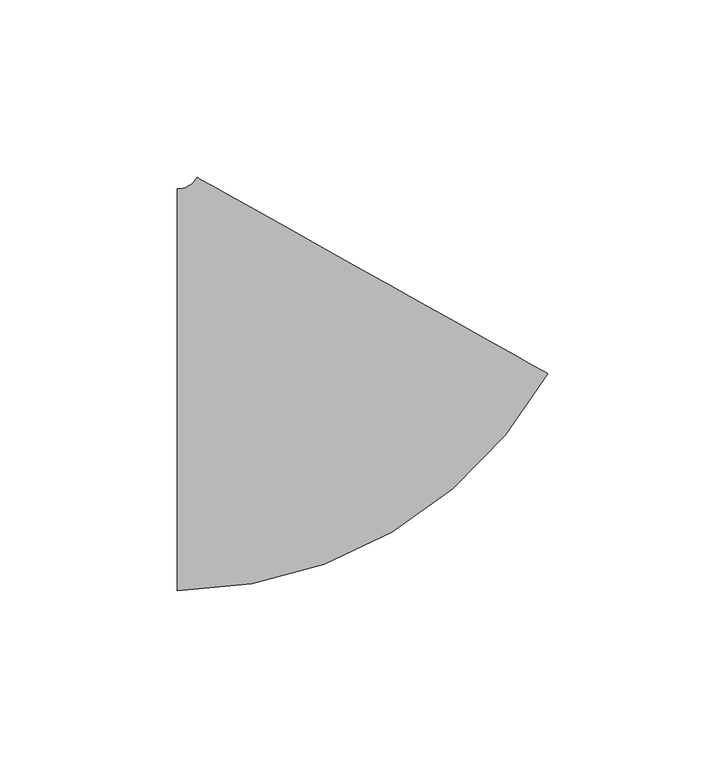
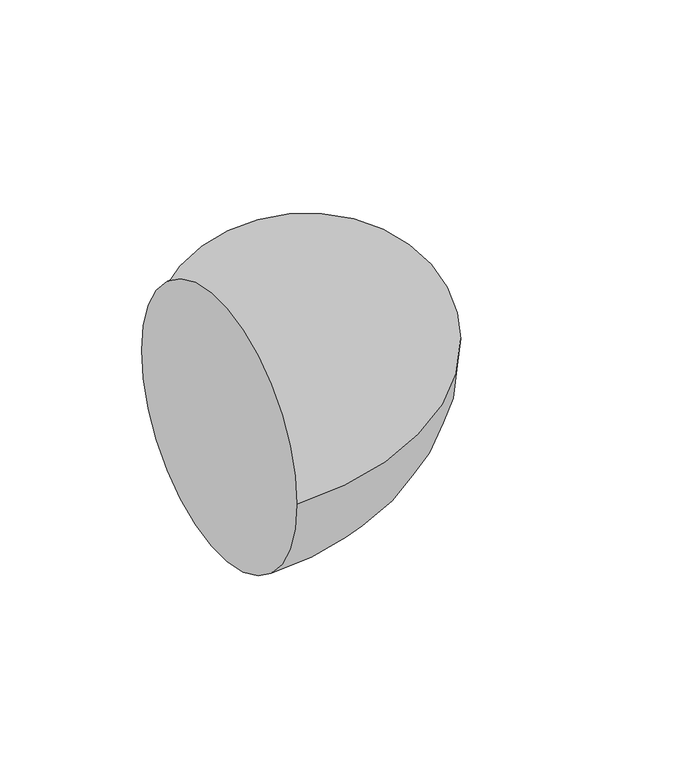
"""IFC4 building model written with IfcOpenShell, lengths in millimetres: pipe fitting geometry, M_Codo - Genérico : Estándar."""

import ifcopenshell
import ifcopenshell.guid

model = None  # the IFC model being written
_history = None  # IfcOwnerHistory: only IFC2X3 demands one
_inside = {}  # id of a spatial element -> (the spatial element, [elements in it])
_under = {}  # id of a project, library or spatial element -> (it, [spatial elements below it])
_declared = {}  # id of a project -> (the project, [libraries it declares])
_typed = {}  # id of a type object -> (the type object, [elements of that type])
_made_of = {}  # id of a material, layer set ... -> (it, [elements and type objects made of it])


def new_model(schema):
    """Start an empty IFC model of exactly this schema.

    Asked for "IFC4X3", IfcOpenShell would pick the latest addendum, in which some entities
    have other attributes; the version numbers below select the first issue.
    IFC2X3 requires an IfcOwnerHistory on every rooted entity: one is made here for all.
    """
    global model, _history
    if schema == "IFC4X3":
        model = ifcopenshell.file(schema_version=(4, 3, 0, 0))
    else:
        model = ifcopenshell.file(schema=schema)
    _inside.clear()
    _under.clear()
    _declared.clear()
    _typed.clear()
    _made_of.clear()
    _history = None
    if model.schema == "IFC2X3":
        org = make("IfcOrganization", Name="unknown")
        user = make(
            "IfcPersonAndOrganization",
            ThePerson=make("IfcPerson", FamilyName="unknown"),
            TheOrganization=org,
        )
        app = make(
            "IfcApplication",
            ApplicationDeveloper=org,
            Version="unknown",
            ApplicationFullName="unknown",
            ApplicationIdentifier="unknown",
        )
        _history = make(
            "IfcOwnerHistory",
            OwningUser=user,
            OwningApplication=app,
            ChangeAction="ADDED",
            CreationDate=0,
        )
    return model


def make(cls, **values):
    """One entity of the class cls with the attributes given. An attribute that is None is left unset."""
    return model.create_entity(
        cls, **{name: value for name, value in values.items() if value is not None}
    )


def rooted(cls, **values):
    """An entity with a GlobalId (a new one), such as an element, a storey or a relation."""
    return make(cls, GlobalId=ifcopenshell.guid.new(), OwnerHistory=_history, **values)


def si_unit(unit_type, name, prefix=None):
    """IfcSIUnit, for example si_unit("LENGTHUNIT", "METRE", prefix="MILLI")."""
    return make("IfcSIUnit", UnitType=unit_type, Prefix=prefix, Name=name)


def assignment(units):
    """IfcUnitAssignment: the units of a project."""
    return None if units is None else make("IfcUnitAssignment", Units=units)


def point(xyz):
    """IfcCartesianPoint."""
    return None if xyz is None else make("IfcCartesianPoint", Coordinates=xyz)


def direction(xyz):
    """IfcDirection."""
    return None if xyz is None else make("IfcDirection", DirectionRatios=xyz)


def frame(location, z_axis=None, x_axis=None):
    """IfcAxis2Placement3D, a coordinate frame: its origin and axes. An axis left out is left unset."""
    return make(
        "IfcAxis2Placement3D",
        Location=point(location),
        Axis=direction(z_axis),
        RefDirection=direction(x_axis),
    )


def origin():
    """The frame at (0, 0, 0) with its axes left unset."""
    return frame((0.0, 0.0, 0.0))


def place(relative_to, where):
    """IfcLocalPlacement: puts the frame where relative to a parent placement (None: the world)."""
    return make(
        "IfcLocalPlacement", PlacementRelTo=relative_to, RelativePlacement=where
    )


def context(
    kind, dimensions, precision=None, world=None, true_north=None, identifier=None
):
    """IfcGeometricRepresentationContext, for example the 3D "Model" context."""
    return make(
        "IfcGeometricRepresentationContext",
        ContextIdentifier=identifier,
        ContextType=kind,
        CoordinateSpaceDimension=dimensions,
        Precision=precision,
        WorldCoordinateSystem=world,
        TrueNorth=true_north,
    )


def project(units=None, contexts=None):
    """IfcProject with its units and contexts."""
    return rooted(
        "IfcProject",
        Name="project",
        RepresentationContexts=contexts,
        UnitsInContext=assignment(units),
    )


def spatial(cls, under=None, at=None, **own):
    """A site, building, storey or space (cls), placed at a placement, below another one or the project."""
    s = rooted(cls, ObjectPlacement=at, **own)
    if under is not None:
        _under.setdefault(under.id(), (under, []))[1].append(s)
    return s


def circle_curve(where, radius):
    """IfcCircle in the frame where."""
    return make("IfcCircle", Position=where, Radius=radius)


def ellipse_curve(where, semi_axis1, semi_axis2):
    """IfcEllipse in the frame where."""
    return make(
        "IfcEllipse", Position=where, SemiAxis1=semi_axis1, SemiAxis2=semi_axis2
    )


def trimmed(basis, trim1, trim2, sense, master):
    """IfcTrimmedCurve: the piece of a basis curve between two trims."""
    return make(
        "IfcTrimmedCurve",
        BasisCurve=basis,
        Trim1=trim1,
        Trim2=trim2,
        SenseAgreement=sense,
        MasterRepresentation=master,
    )


def shape(context_of_items, identifier, shape_type, items):
    """IfcShapeRepresentation: the items that make up one representation, for example the "Body"."""
    return make(
        "IfcShapeRepresentation",
        ContextOfItems=context_of_items,
        RepresentationIdentifier=identifier,
        RepresentationType=shape_type,
        Items=items,
    )


def source(mapping_origin, context_of_items, identifier, shape_type, items):
    """IfcRepresentationMap: a shape defined once, which mapped items show again and again."""
    return make(
        "IfcRepresentationMap",
        MappingOrigin=mapping_origin,
        MappedRepresentation=shape(context_of_items, identifier, shape_type, items),
    )


def transform(
    local_origin,
    x_axis=None,
    y_axis=None,
    z_axis=None,
    scale=None,
    scale2=None,
    scale3=None,
    uniform=True,
):
    """IfcCartesianTransformationOperator3D, or its non-uniform kind. x_axis, y_axis, z_axis: its Axis1, 2, 3."""
    if uniform:
        return make(
            "IfcCartesianTransformationOperator3D",
            Axis1=direction(x_axis),
            Axis2=direction(y_axis),
            LocalOrigin=point(local_origin),
            Scale=scale,
            Axis3=direction(z_axis),
        )
    return make(
        "IfcCartesianTransformationOperator3DnonUniform",
        Axis1=direction(x_axis),
        Axis2=direction(y_axis),
        LocalOrigin=point(local_origin),
        Scale=scale,
        Axis3=direction(z_axis),
        Scale2=scale2,
        Scale3=scale3,
    )


def mapped(mapping_source, mapping_target):
    """IfcMappedItem: shows the shape of a source again, moved by a transform."""
    return make(
        "IfcMappedItem", MappingSource=mapping_source, MappingTarget=mapping_target
    )


def made_of(thing, what):
    """Note that an element or type object is made of a material, layer set ...; save() writes the relation."""
    if what is not None:
        _made_of.setdefault(what.id(), (what, []))[1].append(thing)
    return thing


def element(
    cls,
    number,
    at=None,
    inside=None,
    cuts=None,
    type_object=None,
    material=None,
    context=None,
    identifier="Body",
    shape_type=None,
    held_by="IfcProductDefinitionShape",
    body=None,
    shapes=None,
    **own,
):
    """One element of the class cls, such as IfcWall. Its Tag is "e" and its number.

    at: its placement. inside: the storey or other place that contains it. cuts: it is an
    opening in that element (IfcRelVoidsElement). A single representation is given by context,
    identifier, shape_type and body (its items); several are given by shapes. held_by: the class
    of the entity that holds the representations. save() writes the other relations.
    """
    e = rooted(cls, Tag="e%d" % number, ObjectPlacement=at, **own)
    if body is not None:
        shapes = [shape(context, identifier, shape_type, body)]
    if shapes is not None:
        e.Representation = make(held_by, Representations=shapes)
    if inside is not None:
        _inside.setdefault(inside.id(), (inside, []))[1].append(e)
    if cuts is not None:
        rooted(
            "IfcRelVoidsElement", RelatingBuildingElement=cuts, RelatedOpeningElement=e
        )
    if type_object is not None:
        _typed.setdefault(type_object.id(), (type_object, []))[1].append(e)
    return made_of(e, material)


def aggregate(whole, parts):
    """IfcRelAggregates: a whole, such as a stair, and the parts it consists of."""
    return rooted("IfcRelAggregates", RelatingObject=whole, RelatedObjects=parts)


def save(model, path):
    """Write the relations noted so far, then the file.

    IfcRelAggregates (storeys below a building ...), IfcRelContainedInSpatialStructure (elements
    in a storey), IfcRelDefinesByType, IfcRelAssociatesMaterial and IfcRelDeclares: one each for
    every whole, place, type object, material and project.
    """
    for whole, parts in _under.values():
        aggregate(whole, parts)
    for where, things in _inside.values():
        rooted(
            "IfcRelContainedInSpatialStructure",
            RelatedElements=things,
            RelatingStructure=where,
        )
    for kind, things in _typed.values():
        rooted("IfcRelDefinesByType", RelatedObjects=things, RelatingType=kind)
    for what, things in _made_of.values():
        rooted("IfcRelAssociatesMaterial", RelatedObjects=things, RelatingMaterial=what)
    for by, libraries in _declared.values():
        rooted("IfcRelDeclares", RelatingContext=by, RelatedDefinitions=libraries)
    model.write(path)


def plane_surface(at):
    """IfcPlane: the flat surface through the origin of the frame at, square to its z axis."""
    return make("IfcPlane", Position=at)


def revolved_surface(curve, axis_point, axis_direction):
    """IfcSurfaceOfRevolution: the curve turned about the line through axis_point along axis_direction."""
    return make(
        "IfcSurfaceOfRevolution",
        SweptCurve=make("IfcArbitraryOpenProfileDef", ProfileType="CURVE", Curve=curve),
        AxisPosition=make("IfcAxis1Placement", Location=point(axis_point), Axis=direction(axis_direction)),
    )


def advanced_brep(points, edges, surfaces, faces):
    """IfcAdvancedBrep: a solid bounded by faces that lie on surfaces and meet in shared edges.

    An edge is (start, end): straight between two places in points (the first is 0);
    or (start, end, curve); or (start, end, curve, False) where it runs against its curve.
    A face is (place in surfaces, loops), or (place, loops, False) where it looks against
    its surface's normal. A loop lists edges by number (the first is 1), with a minus sign
    where the edge is run from its end to its start. The first loop is the outer one.
    """
    corners = [point(p) for p in points]
    vertices = [make("IfcVertexPoint", VertexGeometry=c) for c in corners]
    made = []
    for start, end, *more in edges:
        made.append(
            make(
                "IfcEdgeCurve",
                EdgeStart=vertices[start],
                EdgeEnd=vertices[end],
                EdgeGeometry=more[0] if more else make("IfcPolyline", Points=[corners[start], corners[end]]),
                SameSense=more[1] if len(more) > 1 else True,
            )
        )
    hull = []
    for where, loops, *sense in faces:
        bounds = []
        for j, loop in enumerate(loops):
            ring = [make("IfcOrientedEdge", EdgeElement=made[abs(k) - 1], Orientation=k > 0) for k in loop]
            bounds.append(
                make(
                    "IfcFaceOuterBound" if j == 0 else "IfcFaceBound",
                    Bound=make("IfcEdgeLoop", EdgeList=ring),
                    Orientation=True,
                )
            )
        hull.append(make("IfcAdvancedFace", Bounds=bounds, FaceSurface=surfaces[where], SameSense=sense[0] if sense else True))
    return make("IfcAdvancedBrep", Outer=make("IfcClosedShell", CfsFaces=hull))


def pipe_fitting_760535a0(model_context):
    return source(origin(), model_context, "Body", "AdvancedBrep", [
        advanced_brep(
        [(-36.9030507, -56.5875, 0.0), (-36.9030507, 56.5875, 0.0), (67.4023923, 4.5714124, 0.0), (-31.3616195, 59.8366871, 0.0)],
        [
            (0, 1, circle_curve(frame((-36.9030507, 0.0, 0.0), z_axis=(-1.0, 0.0, 0.0), x_axis=(0.0, 1.0, 0.0)), 56.5875)),
            (1, 0, circle_curve(frame((-36.9030507, 0.0, 0.0), z_axis=(-1.0, 0.0, 0.0), x_axis=(0.0, 1.0, 0.0)), 56.5875)),
            (2, 3, circle_curve(frame((18.0203864, 32.2040498, 0.0), z_axis=(0.48831698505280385, 0.8726663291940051, 0.0), x_axis=(-0.8726663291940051, 0.48831698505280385, 0.0)), 56.5875)),
            (3, 2, circle_curve(frame((18.0203864, 32.2040498, 0.0), z_axis=(0.48831698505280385, 0.8726663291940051, 0.0), x_axis=(-0.8726663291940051, 0.48831698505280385, 0.0)), 56.5875)),
            (3, 1, circle_curve(frame((-36.9030507, 62.9375, 0.0), z_axis=(0.0, 0.0, -1.0), x_axis=(0.0, -1.0, 0.0)), 6.35)),
            (0, 2, circle_curve(frame((-36.9030507, 62.9375, 0.0), z_axis=(0.0, 0.0, 1.0), x_axis=(0.0, -1.0, 0.0)), 119.525)),
        ],
        [
            plane_surface(frame((-36.9030507, 0.0, 0.0), z_axis=(-1.0, 0.0, 0.0), x_axis=(0.0, 0.0, 1.0))),
            plane_surface(frame((18.0203864, 32.2040498, 0.0), z_axis=(0.4883169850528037, 0.8726663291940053, 0.0), x_axis=(0.0, 0.0, 1.0))),
            revolved_surface(trimmed(ellipse_curve(frame((-36.9030507, 0.0, 0.0), z_axis=(-1.0, 0.0, 0.0), x_axis=(0.0, 1.0, 0.0)), 56.5875, 56.5875), [point((-36.9030507, -56.5875, 0.0))], [point((-36.9030507, 56.5875, 0.0))], True, "CARTESIAN"), (-36.9030507, 62.9375, 0.0), (0.0, 0.0, 1.0)),
            revolved_surface(trimmed(ellipse_curve(frame((-36.9030507, 0.0, 0.0), z_axis=(-1.0, 0.0, 0.0), x_axis=(0.0, 1.0, 0.0)), 56.5875, 56.5875), [point((-36.9030507, 56.5875, 0.0))], [point((-36.9030507, -56.5875, 0.0))], True, "CARTESIAN"), (-36.9030507, 62.9375, 0.0), (0.0, 0.0, 1.0)),
        ],
        [
            (0, [[1, 2]]),
            (1, [[3, 4]]),
            (2, [[5, -1, 6, -4]]),
            (3, [[-6, -2, -5, -3]]),
        ],
    ),
    ])


if __name__ == "__main__":
    model = new_model("IFC4")
    model_context = context("Model", 3, world=origin())
    ifc_project = project(units=[si_unit("LENGTHUNIT", "METRE", prefix="MILLI")], contexts=[model_context])
    site = spatial("IfcSite", under=ifc_project)
    building = spatial("IfcBuilding", under=site)
    placement = place(None, origin())
    pipe_fitting_shape = pipe_fitting_760535a0(model_context)
    element("IfcPipeFitting", 1, ObjectType="M_Codo - Genérico : Estándar", at=placement, inside=building, context=model_context, shape_type="MappedRepresentation", body=[
        mapped(pipe_fitting_shape, transform((0.0, 0.0, 0.0), x_axis=(1.0, 0.0, 0.0), y_axis=(0.0, 1.0, 0.0), z_axis=(0.0, 0.0, 1.0))),
    ])
    save(model, "model.ifc")
